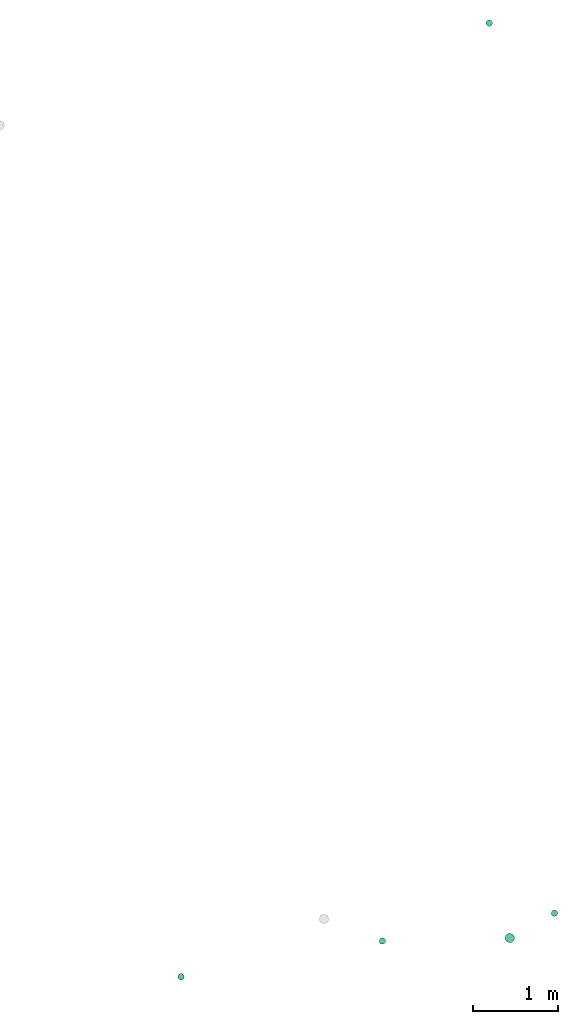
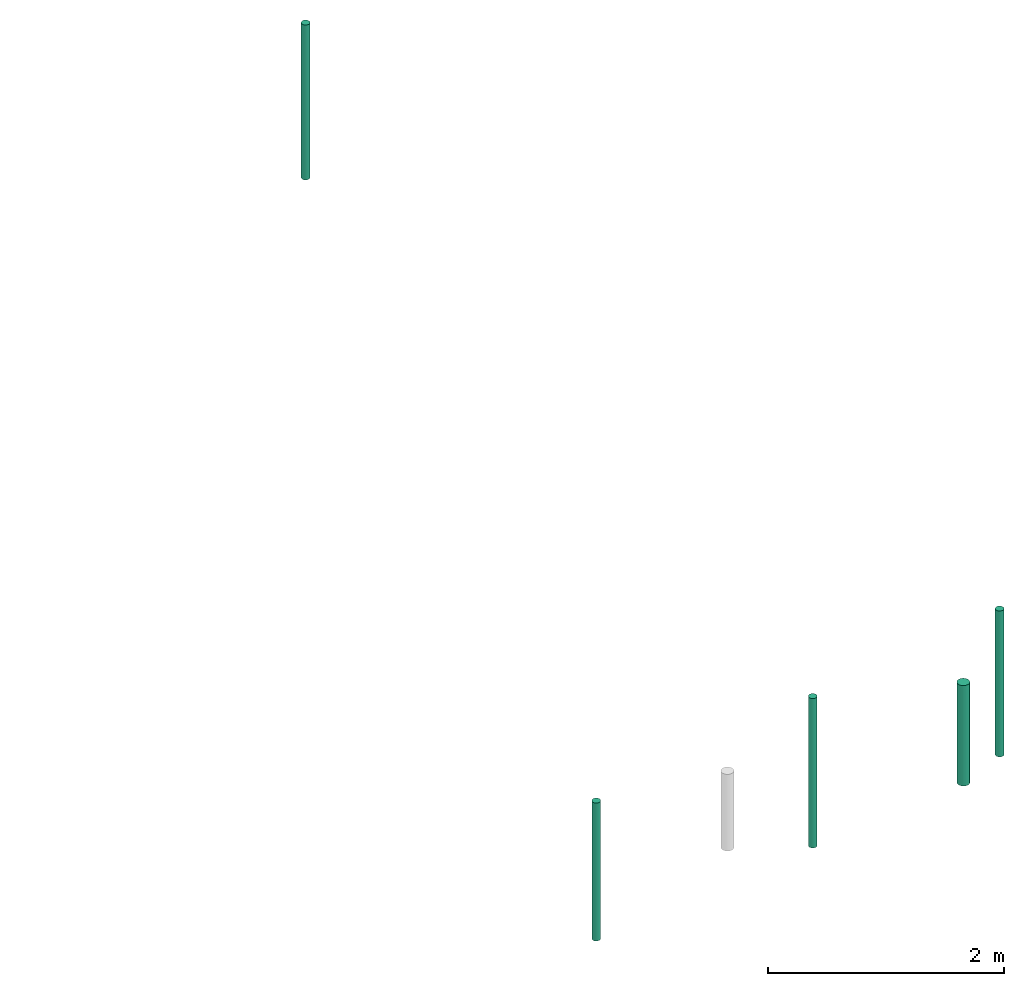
# One storey, part 1 of 3: 5 flow segments.
"""IFC2X3 building model written with IfcOpenShell, lengths in millimetres."""

from ifc_helpers import new_model, entity, si_unit, converted_unit, derived_unit, direction, frame, origin, origin_with_axes, origin_2d_with_axis, place, context, subcontext, project, spatial, circle, extrude, type_object, element, save


model = new_model("IFC2X3")

# Units and contexts
model_context = context("Model", 3, precision=0.01, world=origin(), true_north=direction((6.12323399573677e-17, 1.0)))
plan_context = context("Plan", 3, precision=1e-05, world=origin_with_axes())
body_context = subcontext(model_context, "Body", "Model", "MODEL_VIEW")
ifc_project = project(units=[converted_unit("PLANEANGLEUNIT", "DEGREE", entity("IfcPositiveLengthMeasure", 0.0174532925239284), si_unit("PLANEANGLEUNIT", "RADIAN"), dimensions=[0, 0, 0, 0, 0, 0, 0]), si_unit("AREAUNIT", "SQUARE_METRE"), si_unit("LENGTHUNIT", "METRE", prefix="MILLI"), si_unit("MASSUNIT", "GRAM", prefix="KILO"), si_unit("POWERUNIT", "WATT"), si_unit("PRESSUREUNIT", "PASCAL", prefix="KILO"), si_unit("FORCEUNIT", "NEWTON", prefix="KILO"), si_unit("ELECTRICVOLTAGEUNIT", "VOLT"), si_unit("ELECTRICCURRENTUNIT", "AMPERE"), si_unit("THERMODYNAMICTEMPERATUREUNIT", "DEGREE_CELSIUS"), si_unit("TIMEUNIT", "SECOND"), si_unit("VOLUMEUNIT", "CUBIC_METRE"), derived_unit("LINEARVELOCITYUNIT", [(si_unit("LENGTHUNIT", "METRE"), 1), (si_unit("TIMEUNIT", "SECOND"), -1)]), derived_unit("VOLUMETRICFLOWRATEUNIT", [(si_unit("VOLUMEUNIT", "CUBIC_METRE"), 1), (si_unit("TIMEUNIT", "SECOND"), -1)]), derived_unit("THERMALTRANSMITTANCEUNIT", [(si_unit("POWERUNIT", "WATT"), 1), (si_unit("THERMODYNAMICTEMPERATUREUNIT", "KELVIN"), -1), (si_unit("AREAUNIT", "SQUARE_METRE"), -1)]), derived_unit("SOUNDPRESSUREUNIT", [(si_unit("PRESSUREUNIT", "PASCAL"), 1)])], contexts=[model_context, plan_context])

# Site, building, storey
site_placement = place(None, frame((-0.000710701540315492, 0.00438415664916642, 0.0), z_axis=(0.0, 0.0, 1.0), x_axis=(-0.160236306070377, 0.987078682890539, 0.0)))
site = spatial("IfcSite", under=ifc_project, at=site_placement, Name="Default", CompositionType="ELEMENT")
building_placement = place(site_placement, origin_with_axes())
building = spatial("IfcBuilding", under=site, at=building_placement, CompositionType="ELEMENT")
storey_placement = place(building_placement, frame((0.0, 0.0, 48160.0), z_axis=(0.0, 0.0, 1.0), x_axis=(1.0, 0.0, 0.0)))
storey = spatial("IfcBuildingStorey", under=building, at=storey_placement, Name="Nivå C", CompositionType="ELEMENT", Elevation=48160.0)

# Flow segments
pipe_segment_type = type_object("IfcPipeSegmentType", Name="Pipe Types:MA", PredefinedType="NOTDEFINED")
flow_segment_1_placement = place(storey_placement, origin_with_axes())
element("IfcFlowSegment", 1, at=flow_segment_1_placement, inside=storey, type_object=pipe_segment_type, Name="Pipe Types:MA", ObjectType="Pipe Types:MA", context=body_context, shape_type="SweptSolid", body=[
    extrude(circle(Radius=55.0, at=origin_2d_with_axis()), frame((768767.619644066, -599160.779433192, 2101.11488590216)), (0.0, 0.0, 1.0), 1040.01844743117),
])
flow_segment_2_placement = place(storey_placement, origin_with_axes())
element("IfcFlowSegment", 2, at=flow_segment_2_placement, inside=storey, type_object=pipe_segment_type, Name="Pipe Types:MA", ObjectType="Pipe Types:MA", context=body_context, shape_type="SweptSolid", body=[
    extrude(circle(Radius=37.5, at=origin_2d_with_axis()), frame((768972.619644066, -599725.029432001, 2029.04270958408)), (0.0, 0.0, 1.0), 1510.67797295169),
])
flow_segment_3_placement = place(storey_placement, origin_with_axes())
element("IfcFlowSegment", 3, at=flow_segment_3_placement, inside=storey, type_object=pipe_segment_type, Name="Pipe Types:MA", ObjectType="Pipe Types:MA", context=body_context, shape_type="SweptSolid", body=[
    extrude(circle(Radius=37.5, at=origin_2d_with_axis()), frame((768972.619644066, -597679.534365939, 1992.16285597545)), (0.0, 0.0, 1.0), 1547.55782656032),
])
flow_segment_4_placement = place(storey_placement, origin_with_axes())
element("IfcFlowSegment", 4, at=flow_segment_4_placement, inside=storey, type_object=pipe_segment_type, Name="Pipe Types:MA", ObjectType="Pipe Types:MA", context=body_context, shape_type="SweptSolid", body=[
    extrude(circle(Radius=37.5, at=origin_2d_with_axis()), frame((768936.711651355, -595279.133971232, 2111.19244657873)), (0.0, 0.0, 1.0), 1428.52823595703),
])
flow_segment_5_placement = place(storey_placement, origin_with_axes())
element("IfcFlowSegment", 5, at=flow_segment_5_placement, inside=storey, type_object=pipe_segment_type, Name="Pipe Types:MA", ObjectType="Pipe Types:MA", context=body_context, shape_type="SweptSolid", body=[
    extrude(circle(Radius=37.5, at=origin_2d_with_axis()), frame((779407.619644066, -600643.770677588, 1935.55205084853)), (0.0, 0.0, 1.0), 1604.16863168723),
])

save(model, "model.ifc")
